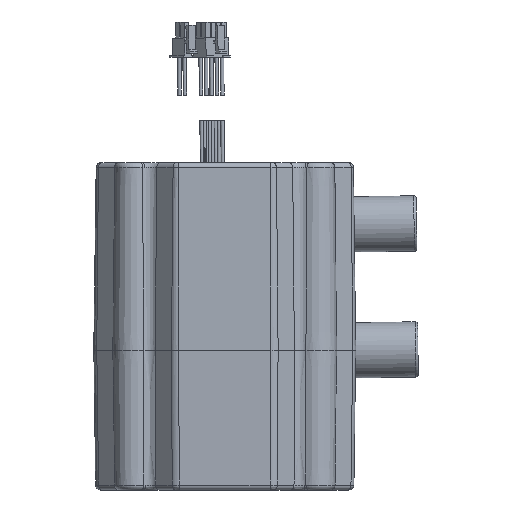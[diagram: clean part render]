
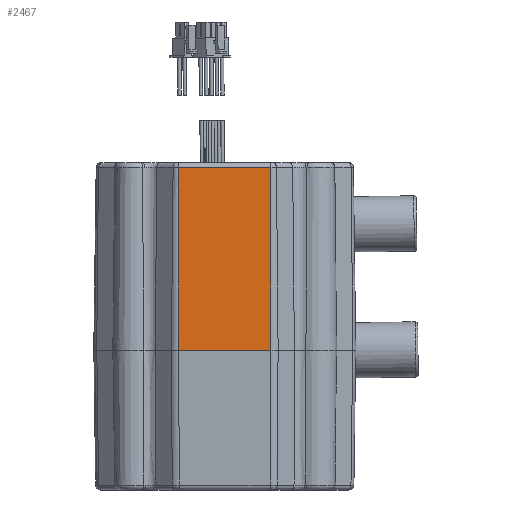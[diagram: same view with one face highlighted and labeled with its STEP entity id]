
A CAD part, left-side view. The second image highlights one B-rep face of the part: STEP entity #2467.
In plain terms, the highlighted planar face has unit normal (-1, 0, 0.013).
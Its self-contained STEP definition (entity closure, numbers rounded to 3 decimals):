
#1824=FACE_OUTER_BOUND('',#5848,.T.);
#2467=ADVANCED_FACE('',(#1824),#2998,.F.);
#2998=PLANE('',#13073);
#3893=LINE('',#19701,#4911);
#3913=LINE('',#19839,#4931);
#3914=LINE('',#19841,#4932);
#3915=LINE('',#19843,#4933);
#4911=VECTOR('',#15594,1.);
#4931=VECTOR('',#15680,1.);
#4932=VECTOR('',#15683,1.);
#4933=VECTOR('',#15684,1.);
#5848=EDGE_LOOP('',(#8344,#8345,#8346,#8347));
#8344=ORIENTED_EDGE('',*,*,#11544,.T.);
#8345=ORIENTED_EDGE('',*,*,#11545,.T.);
#8346=ORIENTED_EDGE('',*,*,#11546,.T.);
#8347=ORIENTED_EDGE('',*,*,#11497,.T.);
#10057=VERTEX_POINT('',#19700);
#10058=VERTEX_POINT('',#19702);
#10090=VERTEX_POINT('',#19838);
#10091=VERTEX_POINT('',#19842);
#11497=EDGE_CURVE('',#10058,#10057,#3893,.T.);
#11544=EDGE_CURVE('',#10057,#10090,#3913,.T.);
#11545=EDGE_CURVE('',#10090,#10091,#3914,.T.);
#11546=EDGE_CURVE('',#10091,#10058,#3915,.T.);
#13073=AXIS2_PLACEMENT_3D('',#19844,#15685,#15686);
#15594=DIRECTION('',(0.,-1.,0.));
#15680=DIRECTION('',(0.013,0.,1.));
#15683=DIRECTION('',(0.,1.,0.));
#15684=DIRECTION('',(-0.013,0.,-1.));
#15685=DIRECTION('',(1.,0.,-0.013));
#15686=DIRECTION('',(0.013,0.,1.));
#19700=CARTESIAN_POINT('',(29.859,61.778,95.394));
#19701=CARTESIAN_POINT('',(29.859,132.121,95.394));
#19702=CARTESIAN_POINT('',(29.859,98.464,95.394));
#19838=CARTESIAN_POINT('',(30.808,61.778,167.92));
#19839=CARTESIAN_POINT('',(29.879,61.778,96.894));
#19841=CARTESIAN_POINT('',(30.808,80.121,167.92));
#19842=CARTESIAN_POINT('',(30.808,98.464,167.92));
#19843=CARTESIAN_POINT('',(29.879,98.464,96.894));
#19844=CARTESIAN_POINT('',(29.879,80.121,96.894));
